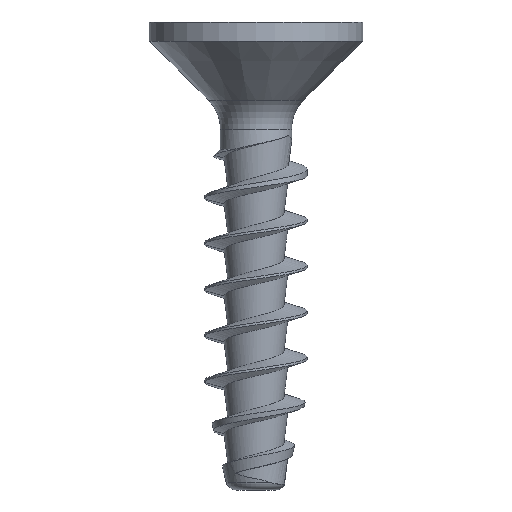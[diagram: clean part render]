
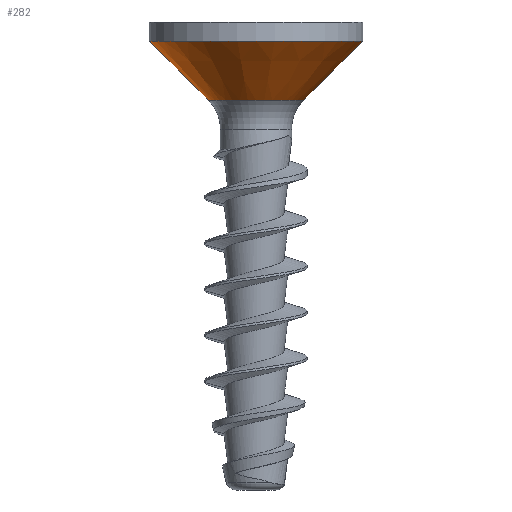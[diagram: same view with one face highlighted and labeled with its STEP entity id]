
A CAD part, front view. The second image highlights one B-rep face of the part: STEP entity #282.
In plain terms, the highlighted conical face has half-angle 45 degrees and reference radius 1.22 mm.
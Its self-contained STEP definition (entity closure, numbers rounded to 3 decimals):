
#259=FACE_BOUND('',#439,.T.);
#260=FACE_BOUND('',#440,.T.);
#269=CONICAL_SURFACE('',#1328,1.22,45.);
#282=ADVANCED_FACE('',(#259,#260),#269,.T.);
#439=EDGE_LOOP('',(#605));
#440=EDGE_LOOP('',(#606));
#521=CIRCLE('',#1326,1.63);
#522=CIRCLE('',#1327,3.65);
#605=ORIENTED_EDGE('',*,*,#1098,.T.);
#606=ORIENTED_EDGE('',*,*,#1099,.F.);
#972=VERTEX_POINT('',#2647);
#973=VERTEX_POINT('',#2649);
#1098=EDGE_CURVE('',#972,#972,#521,.T.);
#1099=EDGE_CURVE('',#973,#973,#522,.T.);
#1326=AXIS2_PLACEMENT_3D('',#2646,#1458,#1459);
#1327=AXIS2_PLACEMENT_3D('',#2648,#1460,#1461);
#1328=AXIS2_PLACEMENT_3D('',#2650,#1462,#1463);
#1458=DIRECTION('',(0.,0.,1.));
#1459=DIRECTION('',(1.,0.,0.));
#1460=DIRECTION('',(0.,0.,1.));
#1461=DIRECTION('',(1.,0.,0.));
#1462=DIRECTION('',(0.,0.,1.));
#1463=DIRECTION('',(1.,0.,0.));
#2646=CARTESIAN_POINT('',(0.,0.,0.41));
#2647=CARTESIAN_POINT('',(1.63,0.,0.41));
#2648=CARTESIAN_POINT('',(0.,0.,2.43));
#2649=CARTESIAN_POINT('',(3.65,0.,2.43));
#2650=CARTESIAN_POINT('',(0.,0.,0.));
